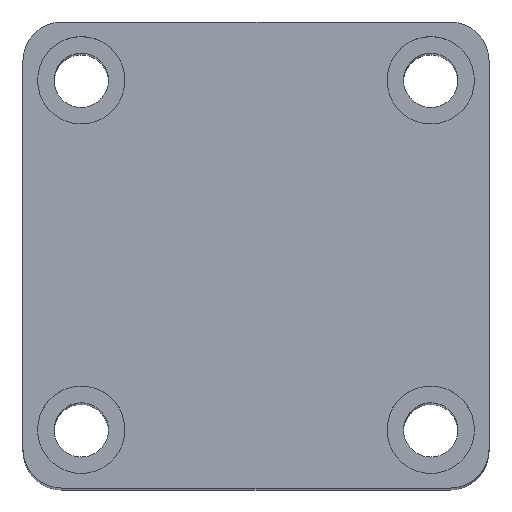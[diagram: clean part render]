
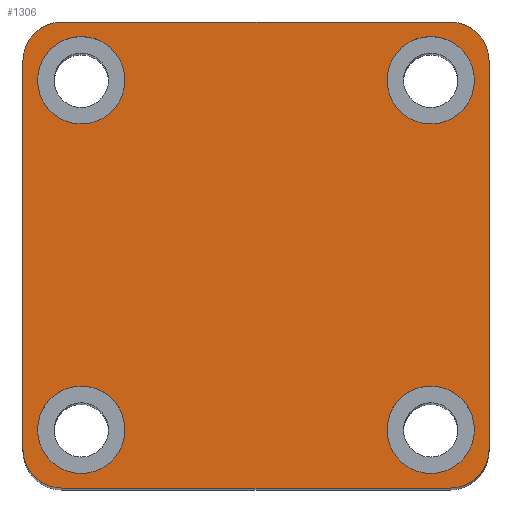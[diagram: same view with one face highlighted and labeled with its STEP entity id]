
A CAD part, top view. The second image highlights one B-rep face of the part: STEP entity #1306.
In plain terms, the highlighted planar face has unit normal (0, 0, 1).
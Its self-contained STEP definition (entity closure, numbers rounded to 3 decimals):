
#7 = VERTEX_POINT ( 'NONE', #1552 ) ;
#40 = ORIENTED_EDGE ( 'NONE', *, *, #1801, .F. ) ;
#86 = ORIENTED_EDGE ( 'NONE', *, *, #2732, .T. ) ;
#121 = ORIENTED_EDGE ( 'NONE', *, *, #1849, .T. ) ;
#126 = ORIENTED_EDGE ( 'NONE', *, *, #2731, .T. ) ;
#133 = ORIENTED_EDGE ( 'NONE', *, *, #2723, .F. ) ;
#184 = ORIENTED_EDGE ( 'NONE', *, *, #1788, .F. ) ;
#194 = VERTEX_POINT ( 'NONE', #1543 ) ;
#198 = ORIENTED_EDGE ( 'NONE', *, *, #2728, .F. ) ;
#202 = ORIENTED_EDGE ( 'NONE', *, *, #1796, .F. ) ;
#233 = VERTEX_POINT ( 'NONE', #1551 ) ;
#238 = VERTEX_POINT ( 'NONE', #1532 ) ;
#390 = AXIS2_PLACEMENT_3D ( 'NONE', #2584, #2582, #2580 ) ;
#412 = AXIS2_PLACEMENT_3D ( 'NONE', #2545, #2544, #2543 ) ;
#414 = AXIS2_PLACEMENT_3D ( 'NONE', #2561, #2559, #2558 ) ;
#437 = AXIS2_PLACEMENT_3D ( 'NONE', #2285, #2284, #2282 ) ;
#443 = AXIS2_PLACEMENT_3D ( 'NONE', #2291, #2290, #2289 ) ;
#458 = AXIS2_PLACEMENT_3D ( 'NONE', #1370, #1379, #1366 ) ;
#461 = AXIS2_PLACEMENT_3D ( 'NONE', #2294, #2293, #2292 ) ;
#475 = AXIS2_PLACEMENT_3D ( 'NONE', #2524, #2523, #2522 ) ;
#496 = AXIS2_PLACEMENT_3D ( 'NONE', #2269, #2268, #2267 ) ;
#497 = AXIS2_PLACEMENT_3D ( 'NONE', #2298, #2297, #2296 ) ;
#498 = AXIS2_PLACEMENT_3D ( 'NONE', #2273, #2272, #2270 ) ;
#501 = AXIS2_PLACEMENT_3D ( 'NONE', #2278, #2277, #2275 ) ;
#502 = AXIS2_PLACEMENT_3D ( 'NONE', #2281, #2280, #2279 ) ;
#747 = CIRCLE ( 'NONE', #496, 4. ) ;
#753 = CIRCLE ( 'NONE', #498, 4. ) ;
#755 = CIRCLE ( 'NONE', #501, 4. ) ;
#757 = CIRCLE ( 'NONE', #502, 4. ) ;
#764 = CIRCLE ( 'NONE', #443, 4.5 ) ;
#769 = CIRCLE ( 'NONE', #461, 4.5 ) ;
#777 = CIRCLE ( 'NONE', #497, 4.5 ) ;
#780 = CIRCLE ( 'NONE', #437, 4.5 ) ;
#791 = ORIENTED_EDGE ( 'NONE', *, *, #1847, .T. ) ;
#794 = ORIENTED_EDGE ( 'NONE', *, *, #1853, .T. ) ;
#796 = ORIENTED_EDGE ( 'NONE', *, *, #2729, .T. ) ;
#797 = VECTOR ( 'NONE', #2312, 1000. ) ;
#802 = LINE ( 'NONE', #2315, #797 ) ;
#808 = ORIENTED_EDGE ( 'NONE', *, *, #1841, .T. ) ;
#813 = VECTOR ( 'NONE', #2326, 1000. ) ;
#814 = ORIENTED_EDGE ( 'NONE', *, *, #2730, .T. ) ;
#819 = LINE ( 'NONE', #2328, #813 ) ;
#821 = VECTOR ( 'NONE', #2330, 1000. ) ;
#827 = LINE ( 'NONE', #2331, #821 ) ;
#834 = ORIENTED_EDGE ( 'NONE', *, *, #1792, .F. ) ;
#837 = ORIENTED_EDGE ( 'NONE', *, *, #2725, .F. ) ;
#844 = VECTOR ( 'NONE', #2356, 1000. ) ;
#848 = LINE ( 'NONE', #2357, #844 ) ;
#908 = EDGE_LOOP ( 'NONE', ( #133, #184 ) ) ;
#910 = EDGE_LOOP ( 'NONE', ( #2083, #202 ) ) ;
#933 = CIRCLE ( 'NONE', #475, 4.5 ) ;
#940 = CIRCLE ( 'NONE', #412, 4.5 ) ;
#947 = CIRCLE ( 'NONE', #414, 4.5 ) ;
#955 = CIRCLE ( 'NONE', #390, 4.5 ) ;
#967 = EDGE_LOOP ( 'NONE', ( #791, #796, #121, #814, #794, #126, #808, #86 ) ) ;
#980 = EDGE_LOOP ( 'NONE', ( #198, #40 ) ) ;
#990 = EDGE_LOOP ( 'NONE', ( #837, #834 ) ) ;
#1137 = VERTEX_POINT ( 'NONE', #1514 ) ;
#1139 = VERTEX_POINT ( 'NONE', #1513 ) ;
#1141 = VERTEX_POINT ( 'NONE', #1512 ) ;
#1152 = VERTEX_POINT ( 'NONE', #1494 ) ;
#1157 = VERTEX_POINT ( 'NONE', #1485 ) ;
#1158 = VERTEX_POINT ( 'NONE', #1484 ) ;
#1173 = VERTEX_POINT ( 'NONE', #1430 ) ;
#1195 = VERTEX_POINT ( 'NONE', #1377 ) ;
#1205 = VERTEX_POINT ( 'NONE', #1350 ) ;
#1208 = VERTEX_POINT ( 'NONE', #1342 ) ;
#1217 = VERTEX_POINT ( 'NONE', #1321 ) ;
#1228 = VERTEX_POINT ( 'NONE', #1725 ) ;
#1306 = ADVANCED_FACE ( 'NONE', ( #1934, #1931, #1935, #1936, #1933 ), #1372, .T. ) ;
#1321 = CARTESIAN_POINT ( 'NONE',  ( -22.5, -18., 115. ) ) ;
#1342 = CARTESIAN_POINT ( 'NONE',  ( 24., -20., 115. ) ) ;
#1350 = CARTESIAN_POINT ( 'NONE',  ( 22.5, 18., 115. ) ) ;
#1366 = DIRECTION ( 'NONE',  ( 1., 0., 0. ) ) ;
#1370 = CARTESIAN_POINT ( 'NONE',  ( 0., 0., 115. ) ) ;
#1372 = PLANE ( 'NONE',  #458 ) ;
#1377 = CARTESIAN_POINT ( 'NONE',  ( -20., 24., 115. ) ) ;
#1379 = DIRECTION ( 'NONE',  ( 0., 0., 1. ) ) ;
#1430 = CARTESIAN_POINT ( 'NONE',  ( 22.5, -18., 115. ) ) ;
#1484 = CARTESIAN_POINT ( 'NONE',  ( 20., 24., 115. ) ) ;
#1485 = CARTESIAN_POINT ( 'NONE',  ( -22.5, 18., 115. ) ) ;
#1494 = CARTESIAN_POINT ( 'NONE',  ( -13.5, -18., 115. ) ) ;
#1512 = CARTESIAN_POINT ( 'NONE',  ( 24., 20., 115. ) ) ;
#1513 = CARTESIAN_POINT ( 'NONE',  ( 20., -24., 115. ) ) ;
#1514 = CARTESIAN_POINT ( 'NONE',  ( 13.5, 18., 115. ) ) ;
#1532 = CARTESIAN_POINT ( 'NONE',  ( -20., -24., 115. ) ) ;
#1543 = CARTESIAN_POINT ( 'NONE',  ( -24., -20., 115. ) ) ;
#1551 = CARTESIAN_POINT ( 'NONE',  ( 13.5, -18., 115. ) ) ;
#1552 = CARTESIAN_POINT ( 'NONE',  ( -13.5, 18., 115. ) ) ;
#1725 = CARTESIAN_POINT ( 'NONE',  ( -24., 20., 115. ) ) ;
#1788 = EDGE_CURVE ( 'NONE', #1157, #7, #955, .T. ) ;
#1792 = EDGE_CURVE ( 'NONE', #1137, #1205, #947, .T. ) ;
#1796 = EDGE_CURVE ( 'NONE', #1217, #1152, #940, .T. ) ;
#1801 = EDGE_CURVE ( 'NONE', #233, #1173, #933, .T. ) ;
#1841 = EDGE_CURVE ( 'NONE', #1208, #1141, #848, .T. ) ;
#1847 = EDGE_CURVE ( 'NONE', #1158, #1195, #827, .T. ) ;
#1849 = EDGE_CURVE ( 'NONE', #1228, #194, #819, .T. ) ;
#1853 = EDGE_CURVE ( 'NONE', #238, #1139, #802, .T. ) ;
#1931 = FACE_BOUND ( 'NONE', #990, .T. ) ;
#1933 = FACE_OUTER_BOUND ( 'NONE', #967, .T. ) ;
#1934 = FACE_BOUND ( 'NONE', #908, .T. ) ;
#1935 = FACE_BOUND ( 'NONE', #910, .T. ) ;
#1936 = FACE_BOUND ( 'NONE', #980, .T. ) ;
#2083 = ORIENTED_EDGE ( 'NONE', *, *, #2726, .F. ) ;
#2267 = DIRECTION ( 'NONE',  ( 1., 0., 0. ) ) ;
#2268 = DIRECTION ( 'NONE',  ( 0., 0., 1. ) ) ;
#2269 = CARTESIAN_POINT ( 'NONE',  ( 20., 20., 115. ) ) ;
#2270 = DIRECTION ( 'NONE',  ( 1., 0., 0. ) ) ;
#2272 = DIRECTION ( 'NONE',  ( 0., 0., 1. ) ) ;
#2273 = CARTESIAN_POINT ( 'NONE',  ( 20., -20., 115. ) ) ;
#2275 = DIRECTION ( 'NONE',  ( 1., 0., 0. ) ) ;
#2277 = DIRECTION ( 'NONE',  ( 0., 0., 1. ) ) ;
#2278 = CARTESIAN_POINT ( 'NONE',  ( -20., -20., 115. ) ) ;
#2279 = DIRECTION ( 'NONE',  ( 1., 0., 0. ) ) ;
#2280 = DIRECTION ( 'NONE',  ( 0., 0., 1. ) ) ;
#2281 = CARTESIAN_POINT ( 'NONE',  ( -20., 20., 115. ) ) ;
#2282 = DIRECTION ( 'NONE',  ( 1., 0., 0. ) ) ;
#2284 = DIRECTION ( 'NONE',  ( 0., 0., 1. ) ) ;
#2285 = CARTESIAN_POINT ( 'NONE',  ( 18., -18., 115. ) ) ;
#2289 = DIRECTION ( 'NONE',  ( 1., 0., 0. ) ) ;
#2290 = DIRECTION ( 'NONE',  ( 0., 0., 1. ) ) ;
#2291 = CARTESIAN_POINT ( 'NONE',  ( -18., -18., 115. ) ) ;
#2292 = DIRECTION ( 'NONE',  ( 1., 0., 0. ) ) ;
#2293 = DIRECTION ( 'NONE',  ( 0., 0., 1. ) ) ;
#2294 = CARTESIAN_POINT ( 'NONE',  ( 18., 18., 115. ) ) ;
#2296 = DIRECTION ( 'NONE',  ( 1., 0., 0. ) ) ;
#2297 = DIRECTION ( 'NONE',  ( 0., 0., 1. ) ) ;
#2298 = CARTESIAN_POINT ( 'NONE',  ( -18., 18., 115. ) ) ;
#2312 = DIRECTION ( 'NONE',  ( 1., 0., 0. ) ) ;
#2315 = CARTESIAN_POINT ( 'NONE',  ( -24., -24., 115. ) ) ;
#2326 = DIRECTION ( 'NONE',  ( 0., -1., 0. ) ) ;
#2328 = CARTESIAN_POINT ( 'NONE',  ( -24., 24., 115. ) ) ;
#2330 = DIRECTION ( 'NONE',  ( -1., 0., 0. ) ) ;
#2331 = CARTESIAN_POINT ( 'NONE',  ( -24., 24., 115. ) ) ;
#2356 = DIRECTION ( 'NONE',  ( 0., 1., 0. ) ) ;
#2357 = CARTESIAN_POINT ( 'NONE',  ( 24., 24., 115. ) ) ;
#2522 = DIRECTION ( 'NONE',  ( 1., 0., 0. ) ) ;
#2523 = DIRECTION ( 'NONE',  ( 0., 0., 1. ) ) ;
#2524 = CARTESIAN_POINT ( 'NONE',  ( 18., -18., 115. ) ) ;
#2543 = DIRECTION ( 'NONE',  ( 1., 0., 0. ) ) ;
#2544 = DIRECTION ( 'NONE',  ( 0., 0., 1. ) ) ;
#2545 = CARTESIAN_POINT ( 'NONE',  ( -18., -18., 115. ) ) ;
#2558 = DIRECTION ( 'NONE',  ( 1., 0., 0. ) ) ;
#2559 = DIRECTION ( 'NONE',  ( 0., 0., 1. ) ) ;
#2561 = CARTESIAN_POINT ( 'NONE',  ( 18., 18., 115. ) ) ;
#2580 = DIRECTION ( 'NONE',  ( 1., 0., 0. ) ) ;
#2582 = DIRECTION ( 'NONE',  ( 0., 0., 1. ) ) ;
#2584 = CARTESIAN_POINT ( 'NONE',  ( -18., 18., 115. ) ) ;
#2723 = EDGE_CURVE ( 'NONE', #7, #1157, #777, .T. ) ;
#2725 = EDGE_CURVE ( 'NONE', #1205, #1137, #769, .T. ) ;
#2726 = EDGE_CURVE ( 'NONE', #1152, #1217, #764, .T. ) ;
#2728 = EDGE_CURVE ( 'NONE', #1173, #233, #780, .T. ) ;
#2729 = EDGE_CURVE ( 'NONE', #1195, #1228, #757, .T. ) ;
#2730 = EDGE_CURVE ( 'NONE', #194, #238, #755, .T. ) ;
#2731 = EDGE_CURVE ( 'NONE', #1139, #1208, #753, .T. ) ;
#2732 = EDGE_CURVE ( 'NONE', #1141, #1158, #747, .T. ) ;
